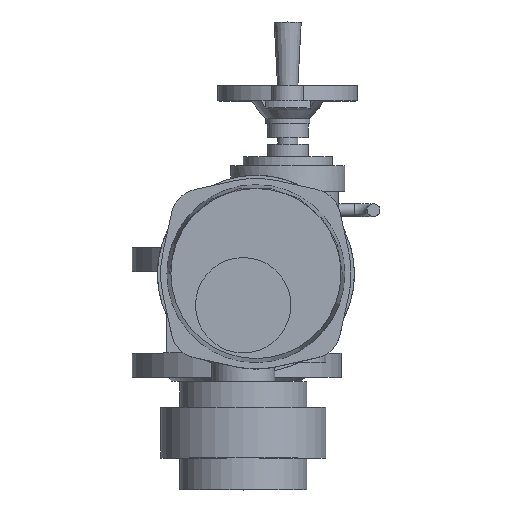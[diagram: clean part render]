
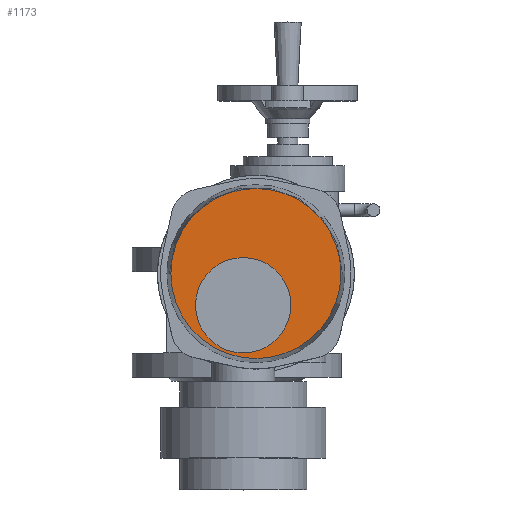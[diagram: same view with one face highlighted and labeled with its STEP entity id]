
A CAD part, top view. The second image highlights one B-rep face of the part: STEP entity #1173.
In plain terms, the highlighted planar face has unit normal (0, 0, 1).
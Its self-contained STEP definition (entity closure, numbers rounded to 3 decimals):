
#1173=ADVANCED_FACE('',(#2648,#2650),#2652,.T.);
#2648=FACE_BOUND('',#2649,.T.);
#2649=EDGE_LOOP('',(#3647));
#2650=FACE_BOUND('',#2651,.T.);
#2651=EDGE_LOOP('',(#3648));
#2652=PLANE('',#2653);
#2653=AXIS2_PLACEMENT_3D('',#2654,#2655,#2656);
#2654=CARTESIAN_POINT('',(15.,30.,362.));
#2655=DIRECTION('',(0.,0.,1.));
#2656=DIRECTION('',(-1.,0.,0.));
#3647=ORIENTED_EDGE('',*,*,#4146,.T.);
#3648=ORIENTED_EDGE('',*,*,#4211,.F.);
#4146=EDGE_CURVE('',#4737,#4737,#4738,.T.);
#4211=EDGE_CURVE('',#4847,#4847,#4848,.T.);
#4737=VERTEX_POINT('',#6862);
#4738=CIRCLE('',#6863,66.908);
#4847=VERTEX_POINT('',#7645);
#4848=CIRCLE('',#7646,37.5);
#6862=CARTESIAN_POINT('',(-51.908,30.,362.));
#6863=AXIS2_PLACEMENT_3D('',#6864,#6865,#6866);
#6864=CARTESIAN_POINT('',(15.,30.,362.));
#6865=DIRECTION('',(0.,0.,1.));
#6866=DIRECTION('',(-1.,0.,0.));
#7645=CARTESIAN_POINT('',(-32.5,5.,362.));
#7646=AXIS2_PLACEMENT_3D('',#7647,#7648,#7649);
#7647=CARTESIAN_POINT('',(5.,5.,362.));
#7648=DIRECTION('',(0.,0.,1.));
#7649=DIRECTION('',(-1.,0.,0.));
